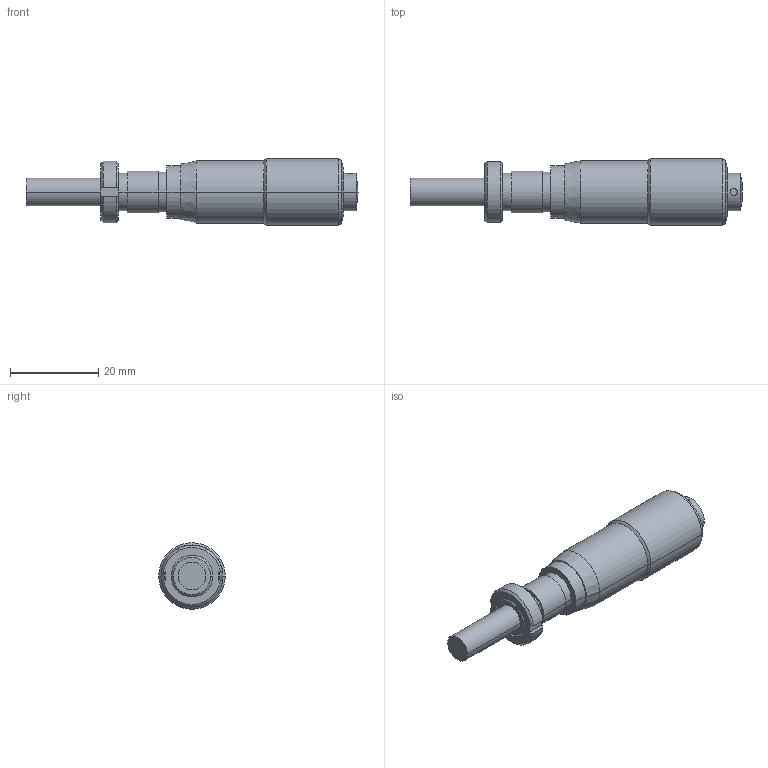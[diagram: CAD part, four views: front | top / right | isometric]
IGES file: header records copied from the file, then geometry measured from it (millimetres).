
Global section: file name: No Iges File Name specified; native system: AutoDesk Inventor R12.0; preprocessor: AutoDesk Inventor Iges Exporter R12.0; author: No Author specified; organization: No Organization specified; date: 20100205.175247; units: millimetre
Bounding box: 75.37 x 15.1 x 15.1 mm (x, y, z)
Volume: 8143.5 mm3; surface area: 7622.7 mm2
Topology: 2 solids, 2 shells, 83 faces, 174 edges, 110 vertices
Faces by surface type: cylinder 24, plane 24, cone 22, revolution 8, bspline 4, sphere 1
